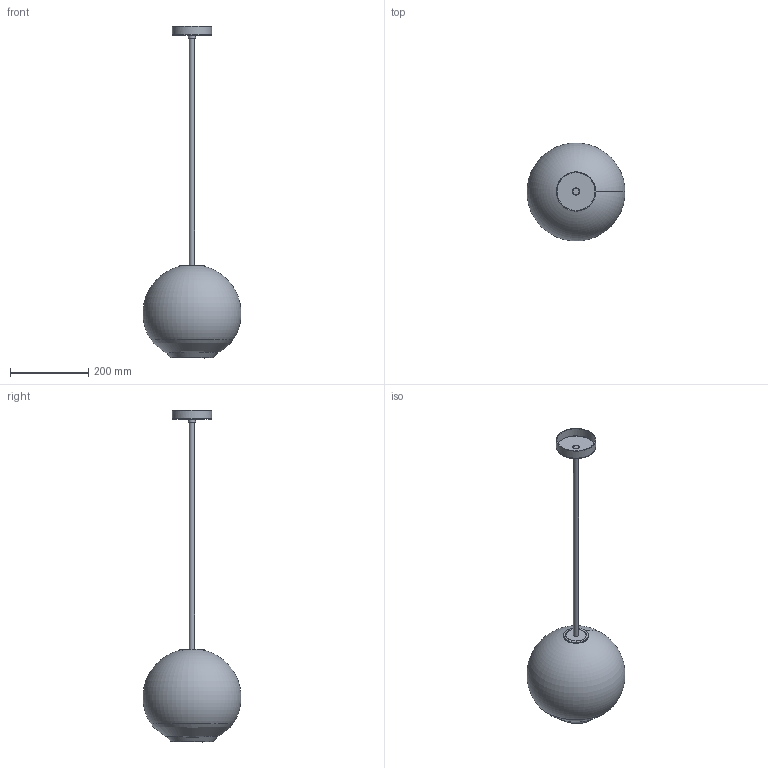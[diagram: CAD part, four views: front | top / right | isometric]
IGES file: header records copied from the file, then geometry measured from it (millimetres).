
Global section: file name: /Users/danielszollosi/Documents/SkLO/Sklo.com/3D models/WEB 3D Models/WEB 3D Models EU/SkLO_Float_1.0_Pendant_LT253_3D_EU.igs; native system: Rhinoceros ( Sep 24 2023 ); preprocessor: Trout Lake IGES 012 Sep 24 2023; date: 241023.133553; units: millimetre
Bounding box: 249.63 x 249.54 x 846.17 mm (x, y, z)
Surface area: 496047.5 mm2 (no closed solid volume)
Topology: 0 solids, 0 shells, 345 faces, 3854 edges, 3771 vertices
Faces by surface type: bspline 345
